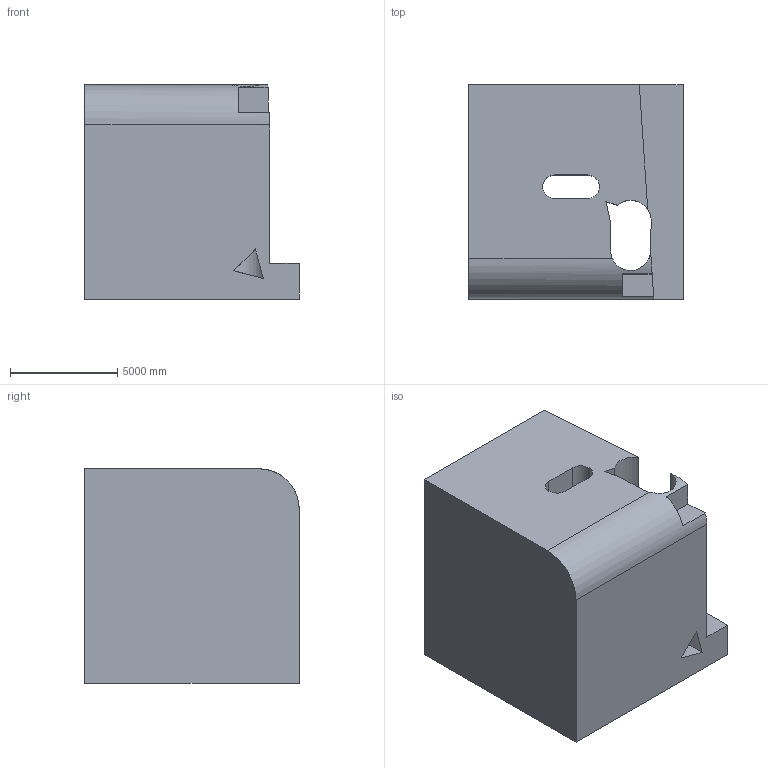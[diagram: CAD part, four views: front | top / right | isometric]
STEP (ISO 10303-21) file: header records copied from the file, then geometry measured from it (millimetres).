
FILE_DESCRIPTION (( 'STEP AP203' ), '1' );
FILE_NAME ('1767.STEP', '2022-08-19T12:43:28', ( 'user' ), ( '' ), 'SwSTEP 2.0', 'SolidWorks 2021', '' );
FILE_SCHEMA (( 'CONFIG_CONTROL_DESIGN' ));
Length unit declared in the file: centimetre
Products named in the file (1): 1767
Bounding box: 10000 x 10000 x 10000 mm (x, y, z)
Volume: 755745094022 mm3; surface area: 700811484.2 mm2
Topology: 1 solids, 1 shells, 34 faces, 95 edges, 63 vertices
Faces by surface type: plane 25, cylinder 9
Entity records: 1273 total; most frequent: CARTESIAN_POINT 303, ORIENTED_EDGE 190, DIRECTION 179, EDGE_CURVE 95, LINE 69, VECTOR 69, VERTEX_POINT 63, AXIS2_PLACEMENT_3D 55
